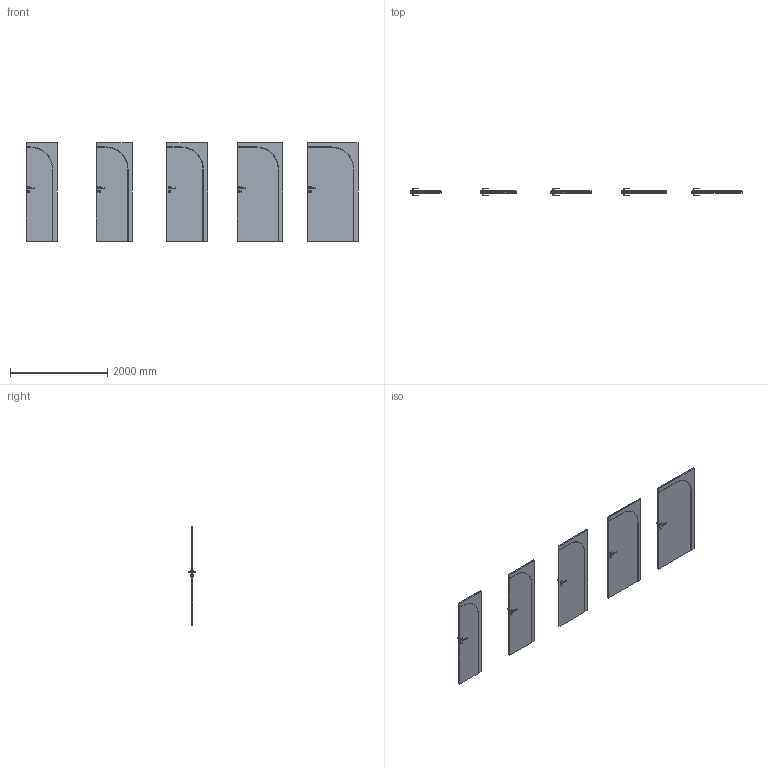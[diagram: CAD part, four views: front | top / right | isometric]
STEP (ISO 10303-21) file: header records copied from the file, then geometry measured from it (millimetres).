
FILE_DESCRIPTION(/* description */ (''),/* implementation_level */ '2;1');
FILE_NAME(/* name */ '049914_A_4-Skrzydło ART DECO model 6_ polska norma _PN__ odwrotna przylga.stp',/* time_stamp */ '2024-09-16T12:21:06+02:00',/* author */ (''),/* organization */ (''),/* preprocessor_version */ 'ST-DEVELOPER v16',/* originating_system */ 'SIEMENS PLM Software NX 11.0',/* authorisation */ '');
FILE_SCHEMA (('AUTOMOTIVE_DESIGN { 1 0 10303 214 3 1 1 1 }'));
Length unit declared in the file: millimetre
Products named in the file (1): msmo2660026Awbi0
Bounding box: 6839 x 153.13 x 2027 mm (x, y, z)
Volume: 331666552.7 mm3; surface area: 18422861.9 mm2
Topology: 25 solids, 25 shells, 1090 faces, 2600 edges, 1460 vertices
Faces by surface type: plane 430, cylinder 300, bspline 160, sphere 140, torus 40, cone 20
Entity records: 35879 total; most frequent: CARTESIAN_POINT 12031, ORIENTED_EDGE 4920, DIRECTION 4862, EDGE_CURVE 2460, AXIS2_PLACEMENT_3D 1771, VERTEX_POINT 1460, LINE 1320, VECTOR 1320
